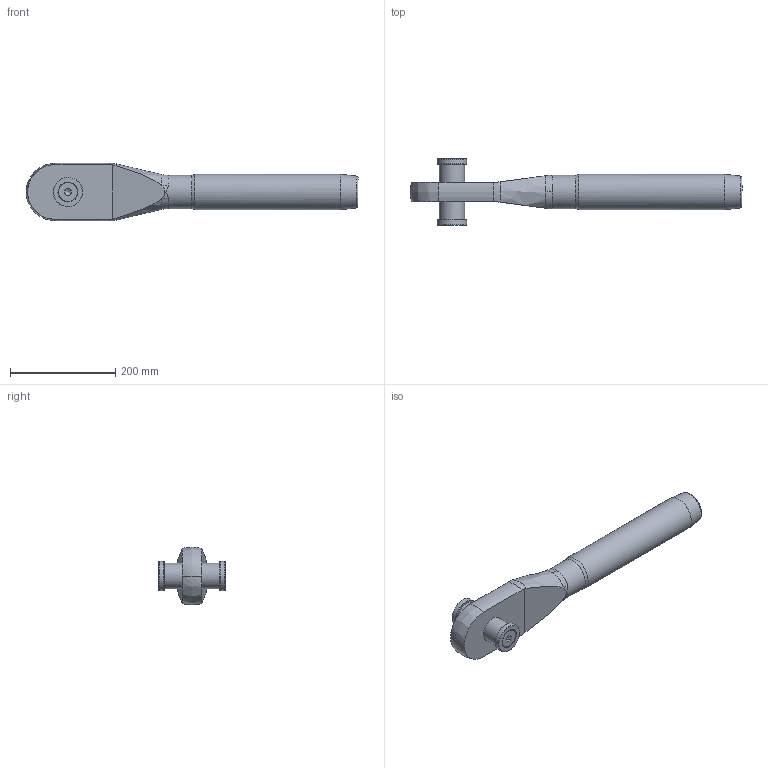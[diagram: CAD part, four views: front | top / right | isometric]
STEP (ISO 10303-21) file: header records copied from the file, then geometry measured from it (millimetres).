
FILE_DESCRIPTION(/* description */ (''),/* implementation_level */ '2;1');
FILE_NAME(/* name */ 'MCC 34_1,4418',/* time_stamp */ '2023-05-23T15:40:39+02:00',/* author */ (''),/* organization */ (''),/* preprocessor_version */ 'ST-DEVELOPER v16.5',/* originating_system */ 'Rhino 7.22',/* authorisation */ '');
FILE_SCHEMA (('CONFIG_CONTROL_DESIGN'));
Length unit declared in the file: millimetre
Products named in the file (1): Document
Bounding box: 631 x 125.45 x 109.99 mm (x, y, z)
Volume: 2417242.4 mm3; surface area: 194504.4 mm2
Topology: 6 solids, 6 shells, 74 faces, 203 edges, 135 vertices
Faces by surface type: bspline 31, plane 27, cylinder 16
Full cylindrical faces by diameter (mm): 17.294 x2, 20 x2, 21 x2, 35.4 x2, 48 x1, 50 x1, 56 x2, 63.5 x1, 66.8 x1
Entity records: 3255 total; most frequent: CARTESIAN_POINT 2000, ORIENTED_EDGE 386, EDGE_CURVE 193, VERTEX_POINT 135, EDGE_LOOP 84, ADVANCED_FACE 74, FACE_OUTER_BOUND 74, B_SPLINE_CURVE_WITH_KNOTS 64
